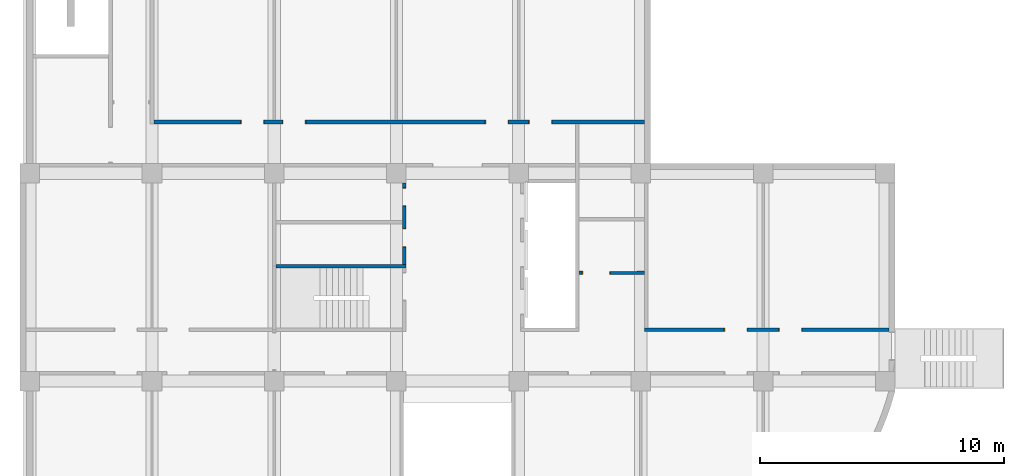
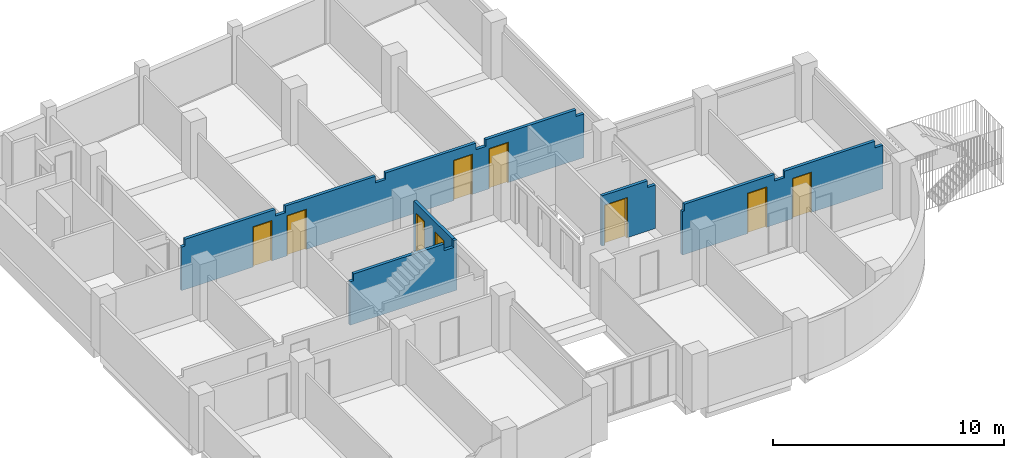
# One storey, part 4 of 7: 9 doors, 5 walls, 9 openings.
"""IFC2X3 building model written with IfcOpenShell, lengths in millimetres."""

from ifc_helpers import new_model, entity, si_unit, converted_unit, derived_unit, money_unit, direction, frame, origin_with_axes, place, context, subcontext, project, spatial, open_shell, faceted_brep, surface_model, source, transform, mapped, material, type_object, element, fill, save


model = new_model("IFC2X3")

# Units and contexts
model_context = context("Model", 3, precision=0.01, world=origin_with_axes(), true_north=direction((0.0, 1.0)))
body_context = subcontext(model_context, "Body", "Model", "MODEL_VIEW")
ifc_project = project(units=[si_unit("LENGTHUNIT", "METRE", prefix="MILLI"), si_unit("AREAUNIT", "SQUARE_METRE"), si_unit("VOLUMEUNIT", "CUBIC_METRE"), converted_unit("PLANEANGLEUNIT", "DEGREE", entity("IfcPlaneAngleMeasure", 0.0174532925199), si_unit("PLANEANGLEUNIT", "RADIAN"), dimensions=[0, 0, 0, 0, 0, 0, 0]), si_unit("SOLIDANGLEUNIT", "STERADIAN"), money_unit("JPY"), converted_unit("TIMEUNIT", "Year", entity("IfcTimeMeasure", 31556926.0), si_unit("TIMEUNIT", "SECOND"), dimensions=[0, 0, 1, 0, 0, 0, 0]), si_unit("MASSUNIT", "GRAM", prefix="KILO"), si_unit("THERMODYNAMICTEMPERATUREUNIT", "DEGREE_CELSIUS"), si_unit("LUMINOUSINTENSITYUNIT", "LUMEN"), si_unit("ENERGYUNIT", "JOULE", prefix="MEGA"), derived_unit("THERMALCONDUCTANCEUNIT", [(si_unit("POWERUNIT", "WATT"), 1), (si_unit("LENGTHUNIT", "METRE"), -1), (si_unit("THERMODYNAMICTEMPERATUREUNIT", "KELVIN"), -1)]), derived_unit("SPECIFICHEATCAPACITYUNIT", [(si_unit("ENERGYUNIT", "JOULE"), 1), (si_unit("MASSUNIT", "GRAM", prefix="KILO"), -1), (si_unit("THERMODYNAMICTEMPERATUREUNIT", "KELVIN"), -1)]), derived_unit("MASSDENSITYUNIT", [(si_unit("MASSUNIT", "GRAM", prefix="KILO"), 1), (si_unit("VOLUMEUNIT", "CUBIC_METRE"), -1)])], contexts=[model_context])

# Site, building, storey
site_placement = place(None, origin_with_axes())
site = spatial("IfcSite", under=ifc_project, at=site_placement, Name="サイト", CompositionType="ELEMENT")
building_placement = place(site_placement, origin_with_axes())
building = spatial("IfcBuilding", under=site, at=building_placement, Name="建築", CompositionType="ELEMENT")
storey_placement = place(building_placement, frame((0.0, 0.0, 3000.0), z_axis=(0.0, 0.0, 1.0), x_axis=(1.0, 0.0, 0.0)))
storey = spatial("IfcBuildingStorey", under=building, at=storey_placement, Name="2FL", CompositionType="ELEMENT", Elevation=3000.0)

# Wall, openings, doors
ifc_material = material(Name="コンクリート")
wall_type = type_object("IfcWallType", Name="コンクリート 150", PredefinedType="NOTDEFINED")
wall_1_placement = place(storey_placement, frame((25275.0000022, 10600.0, 0.0), z_axis=(0.0, 0.0, 1.0), x_axis=(-1.0, 0.0, 0.0)))
wall_1 = element("IfcWall", 1, at=wall_1_placement, inside=storey, type_object=wall_type, material=ifc_material, Name="W9", context=body_context, shape_type="Brep", body=[
    faceted_brep([(4865.00000218, -75.0, 2130.0), (4865.00000218, -75.0, 0.0), (5685.00000218, -75.0, 0.0), (5685.00000218, -75.0, 2130.0), (6645.00000218, -75.0, 2130.0), (6645.00000218, -75.0, 0.0), (13980.0000022, -75.0, 0.0), (13980.0000022, -75.0, 2130.0), (14940.0000022, -75.0, 2130.0), (14940.0000022, -75.0, 0.0), (15685.0000022, -75.0, 0.0), (15685.0000022, -75.0, 2130.0), (16645.0000022, -75.0, 2130.0), (16645.0000022, -75.0, 0.0), (20200.0000022, -75.0, 0.0), (20200.0000022, -75.0, 2300.0), (20025.0000022, -75.0, 2300.0), (20025.0000022, -75.0, 2650.0), (15525.0000022, -75.0, 2650.0), (15525.0000022, -75.0, 2300.0), (15025.0000022, -75.0, 2300.0), (15025.0000022, -75.0, 2650.0), (10525.0000022, -75.0, 2650.0), (10525.0000022, -75.0, 2300.0), (10025.0000022, -75.0, 2300.0), (10025.0000022, -75.0, 2650.0), (5525.00000218, -75.0, 2650.0), (5525.00000218, -75.0, 2300.0), (5025.00000218, -75.0, 2300.0), (5025.00000218, -75.0, 2650.0), (525.000002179, -75.0, 2650.0), (525.000002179, -75.0, 2300.0), (125.0, -75.0, 2300.0), (125.0, -75.0, 0.0), (3905.00000218, -75.0, 0.0), (3905.00000218, -75.0, 2130.0), (4865.00000218, 75.0, 2130.0), (4865.00000218, 75.0, 0.0), (5685.00000218, 75.0, 0.0), (5685.00000218, 75.0, 2130.0), (6645.00000218, 75.0, 2130.0), (6645.00000218, 75.0, 0.0), (13980.0000022, 75.0, 0.0), (13980.0000022, 75.0, 2130.0), (14940.0000022, 75.0, 2130.0), (14940.0000022, 75.0, 0.0), (15685.0000022, 75.0, 0.0), (15685.0000022, 75.0, 2130.0), (16645.0000022, 75.0, 2130.0), (16645.0000022, 75.0, 0.0), (20200.0000022, 75.0, 0.0), (20200.0000022, 75.0, 2300.0), (20025.0000022, 75.0, 2300.0), (20025.0000022, 75.0, 2650.0), (15525.0000022, 75.0, 2650.0), (15525.0000022, 75.0, 2300.0), (15025.0000022, 75.0, 2300.0), (15025.0000022, 75.0, 2650.0), (10525.0000022, 75.0, 2650.0), (10525.0000022, 75.0, 2300.0), (10025.0000022, 75.0, 2300.0), (10025.0000022, 75.0, 2650.0), (5525.00000218, 75.0, 2650.0), (5525.00000218, 75.0, 2300.0), (5025.00000218, 75.0, 2300.0), (5025.00000218, 75.0, 2650.0), (525.000002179, 75.0, 2650.0), (525.000002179, 75.0, 2300.0), (125.0, 75.0, 2300.0), (125.0, 75.0, 0.0), (3905.00000218, 75.0, 0.0), (3905.00000218, 75.0, 2130.0)], [[[0, 1, 2, 3, 4, 5, 6, 7, 8, 9, 10, 11, 12, 13, 14, 15, 16, 17, 18, 19, 20, 21, 22, 23, 24, 25, 26, 27, 28, 29, 30, 31, 32, 33, 34, 35]], [[1, 0, 36, 37]], [[1, 37, 38, 2]], [[2, 38, 39, 3]], [[3, 39, 40, 4]], [[4, 40, 41, 5]], [[41, 42, 6, 5]], [[42, 43, 7, 6]], [[43, 44, 8, 7]], [[44, 45, 9, 8]], [[46, 10, 9, 45]], [[47, 11, 10, 46]], [[48, 12, 11, 47]], [[49, 13, 12, 48]], [[14, 13, 49, 50]], [[50, 51, 15, 14]], [[52, 16, 15, 51]], [[52, 53, 17, 16]], [[18, 17, 53, 54]], [[55, 19, 18, 54]], [[56, 20, 19, 55]], [[56, 57, 21, 20]], [[22, 21, 57, 58]], [[59, 23, 22, 58]], [[60, 24, 23, 59]], [[60, 61, 25, 24]], [[26, 25, 61, 62]], [[63, 27, 26, 62]], [[64, 28, 27, 63]], [[64, 65, 29, 28]], [[65, 66, 30, 29]], [[67, 31, 30, 66]], [[67, 68, 32, 31]], [[33, 32, 68, 69]], [[70, 34, 33, 69]], [[35, 34, 70, 71]], [[0, 35, 71, 36]], [[71, 70, 69, 68, 67, 66, 65, 64, 63, 62, 61, 60, 59, 58, 57, 56, 55, 54, 53, 52, 51, 50, 49, 48, 47, 46, 45, 44, 43, 42, 41, 40, 39, 38, 37, 36]]]),
])
opening_1_placement = place(wall_1_placement, frame((16165.0000022, 0.0, 0.0), z_axis=(0.0, 0.0, 1.0), x_axis=(1.0, 0.0, 0.0)))
opening_1 = element("IfcOpeningElement", 2, at=opening_1_placement, cuts=wall_1, Name="SD3", context=body_context, shape_type="Brep", body=[
    faceted_brep([(480.0, 160.0, 0.0), (480.0, 160.0, 2130.0), (480.0, -160.0, 2130.0), (480.0, -160.0, 0.0), (-480.0, 160.0, 0.0), (-480.0, 160.0, 2130.0), (-480.0, -160.0, 2130.0), (-480.0, -160.0, 0.0)], [[[0, 1, 2, 3]], [[0, 4, 5, 1]], [[1, 5, 6, 2]], [[3, 2, 6, 7]], [[4, 0, 3, 7]], [[5, 4, 7, 6]]]),
])
opening_2_placement = place(wall_1_placement, frame((14460.0000022, 0.0, 0.0), z_axis=(0.0, 0.0, 1.0), x_axis=(1.0, 0.0, 0.0)))
opening_2 = element("IfcOpeningElement", 3, at=opening_2_placement, cuts=wall_1, Name="SD3", context=body_context, shape_type="Brep", body=[
    faceted_brep([(480.0, 160.0, 0.0), (480.0, 160.0, 2130.0), (480.0, -160.0, 2130.0), (480.0, -160.0, 0.0), (-480.0, 160.0, 0.0), (-480.0, 160.0, 2130.0), (-480.0, -160.0, 2130.0), (-480.0, -160.0, 0.0)], [[[0, 1, 2, 3]], [[0, 4, 5, 1]], [[1, 5, 6, 2]], [[3, 2, 6, 7]], [[4, 0, 3, 7]], [[5, 4, 7, 6]]]),
])
opening_3_placement = place(wall_1_placement, frame((6165.00000218, 0.0, 0.0), z_axis=(0.0, 0.0, 1.0), x_axis=(1.0, 0.0, 0.0)))
opening_3 = element("IfcOpeningElement", 4, at=opening_3_placement, cuts=wall_1, Name="SD3", context=body_context, shape_type="Brep", body=[
    faceted_brep([(480.0, 160.0, 0.0), (480.0, 160.0, 2130.0), (480.0, -160.0, 2130.0), (480.0, -160.0, 0.0), (-480.0, 160.0, 0.0), (-480.0, 160.0, 2130.0), (-480.0, -160.0, 2130.0), (-480.0, -160.0, 0.0)], [[[0, 1, 2, 3]], [[0, 4, 5, 1]], [[1, 5, 6, 2]], [[3, 2, 6, 7]], [[4, 0, 3, 7]], [[5, 4, 7, 6]]]),
])
opening_4_placement = place(wall_1_placement, frame((4385.00000218, 0.0, 0.0), z_axis=(0.0, 0.0, 1.0), x_axis=(1.0, 0.0, 0.0)))
opening_4 = element("IfcOpeningElement", 5, at=opening_4_placement, cuts=wall_1, Name="SD4", context=body_context, shape_type="Brep", body=[
    faceted_brep([(480.0, 160.0, 0.0), (480.0, 160.0, 2130.0), (480.0, -160.0, 2130.0), (480.0, -160.0, 0.0), (-480.0, 160.0, 0.0), (-480.0, 160.0, 2130.0), (-480.0, -160.0, 2130.0), (-480.0, -160.0, 0.0)], [[[0, 1, 2, 3]], [[0, 4, 5, 1]], [[1, 5, 6, 2]], [[3, 2, 6, 7]], [[4, 0, 3, 7]], [[5, 4, 7, 6]]]),
])
door_style_1 = type_object("IfcDoorStyle", Name="片開き戸", ConstructionType="NOTDEFINED", OperationType="NOTDEFINED", ParameterTakesPrecedence=False, Sizeable=False)
shared_shape_1 = source(origin_with_axes(), body_context, "Body", "SurfaceModel", [
    surface_model("IfcShellBasedSurfaceModel", [(450.0, -85.0, 0.0), (-450.0, -85.0, 0.0), (-450.0, -85.0, 2100.0), (450.0, -85.0, 2100.0)], [open_shell([[[0, 1, 2, 3]]])]),
    surface_model("IfcShellBasedSurfaceModel", [(480.0, -10.0, 0.0), (450.0, -10.0, 0.0), (450.0, -10.0, 2100.0), (-450.0, -10.0, 2100.0), (-450.0, -10.0, 0.0), (-480.0, -10.0, 0.0), (-480.0, -10.0, 2130.0), (480.0, -10.0, 2130.0)], [open_shell([[[0, 1, 2, 3, 4, 5, 6, 7]]])]),
    surface_model("IfcShellBasedSurfaceModel", [(480.0, -160.0, 0.0), (450.0, -160.0, 0.0), (450.0, -160.0, 2100.0), (-450.0, -160.0, 2100.0), (-450.0, -160.0, 0.0), (-480.0, -160.0, 0.0), (-480.0, -160.0, 2130.0), (480.0, -160.0, 2130.0)], [open_shell([[[0, 1, 2, 3, 4, 5, 6, 7]]])]),
    surface_model("IfcShellBasedSurfaceModel", [(450.0, -10.0, 0.0), (450.0, -160.0, 0.0), (450.0, -160.0, 2100.0), (450.0, -10.0, 2100.0), (480.0, -10.0, 0.0), (480.0, -160.0, 0.0), (-450.0, -160.0, 2100.0), (-450.0, -10.0, 2100.0), (480.0, -10.0, 2130.0), (480.0, -160.0, 2130.0), (-450.0, -160.0, 0.0), (-450.0, -10.0, 0.0), (-480.0, -10.0, 2130.0), (-480.0, -160.0, 2130.0), (-480.0, -160.0, 0.0), (-480.0, -10.0, 0.0)], [open_shell([[[0, 1, 2, 3]], [[4, 5, 1, 0]], [[3, 2, 6, 7]], [[8, 9, 5, 4]], [[7, 6, 10, 11]], [[12, 13, 9, 8]], [[11, 10, 14, 15]], [[15, 14, 13, 12]]])]),
])
door_1_placement = place(opening_1_placement, frame((-450.0, 0.0, 0.0), z_axis=(0.0, 0.0, 1.0), x_axis=(1.0, 0.0, 0.0)))
door_1 = element("IfcDoor", 6, at=door_1_placement, inside=storey, type_object=door_style_1, Name="SD3", OverallHeight=2165.0, OverallWidth=1030.0, context=body_context, shape_type="MappedRepresentation", body=[
    mapped(shared_shape_1, transform((450.0, 85.0, 0.0))),
])
fill(opening_1, door_1)
door_2_placement = place(opening_2_placement, frame((-450.0, 0.0, 0.0), z_axis=(0.0, 0.0, 1.0), x_axis=(1.0, 0.0, 0.0)))
door_2 = element("IfcDoor", 7, at=door_2_placement, inside=storey, type_object=door_style_1, Name="SD3", OverallHeight=2165.0, OverallWidth=1030.0, context=body_context, shape_type="MappedRepresentation", body=[
    mapped(shared_shape_1, transform((450.0, 85.0, 0.0))),
])
fill(opening_2, door_2)
door_3_placement = place(opening_3_placement, frame((-450.0, 0.0, 0.0), z_axis=(0.0, 0.0, 1.0), x_axis=(1.0, 0.0, 0.0)))
door_3 = element("IfcDoor", 8, at=door_3_placement, inside=storey, type_object=door_style_1, Name="SD3", OverallHeight=2165.0, OverallWidth=1030.0, context=body_context, shape_type="MappedRepresentation", body=[
    mapped(shared_shape_1, transform((450.0, 85.0, 0.0))),
])
fill(opening_3, door_3)
door_4_placement = place(opening_4_placement, frame((-450.0, 0.0, 0.0), z_axis=(0.0, 0.0, 1.0), x_axis=(1.0, 0.0, 0.0)))
door_4 = element("IfcDoor", 9, at=door_4_placement, inside=storey, type_object=door_style_1, Name="SD4", OverallHeight=2165.0, OverallWidth=1030.0, context=body_context, shape_type="MappedRepresentation", body=[
    mapped(shared_shape_1, transform((450.0, 85.0, 0.0))),
])
fill(opening_4, door_4)

wall_2_placement = place(storey_placement, frame((15324.9999955, 4700.0, 0.0), z_axis=(0.0, 0.0, 1.0), x_axis=(0.0, 1.0, 0.0)))
wall_2 = element("IfcWall", 10, at=wall_2_placement, inside=storey, type_object=wall_type, material=ifc_material, Name="W4", context=body_context, shape_type="Brep", body=[
    faceted_brep([(2455.0, -75.0000031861, 0.0), (2455.0, -75.0000009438, 2130.0), (3215.0, -75.0000009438, 2130.0), (3215.0, -75.0000042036, 0.0), (3400.0, -75.0000044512, 0.0), (3400.0, -75.0000044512, 2650.0), (75.0, -75.0, 2650.0), (75.0, -75.0, 0.0), (780.0, -75.0000009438, 0.0), (780.0, -75.0, 2130.0), (1540.0, -75.0, 2130.0), (1540.0, -75.0000019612, 0.0), (2455.0, 75.0, 0.0), (2455.0, 75.0, 2130.0), (3215.0, 75.0, 2130.0), (3215.0, 75.0, 0.0), (3400.0, 75.0, 0.0), (3400.0, 74.9999957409, 2650.0), (75.0, 75.0, 2650.0), (75.0, 75.0, 0.0), (780.0, 75.0, 0.0), (780.0, 75.0, 2130.0), (1540.0, 75.0, 2130.0), (1540.0, 75.0, 0.0)], [[[0, 1, 2, 3, 4, 5, 6, 7, 8, 9, 10, 11]], [[1, 0, 12, 13]], [[2, 1, 13, 14]], [[3, 2, 14, 15]], [[3, 15, 16, 4]], [[5, 4, 16, 17]], [[17, 18, 6, 5]], [[7, 6, 18, 19]], [[8, 7, 19, 20]], [[8, 20, 21, 9]], [[9, 21, 22, 10]], [[10, 22, 23, 11]], [[12, 0, 11, 23]], [[13, 12, 23, 22, 21, 20, 19, 18, 17, 16, 15, 14]]]),
])
opening_5_placement = place(wall_2_placement, frame((1160.0, 0.0, 0.0), z_axis=(0.0, 0.0, 1.0), x_axis=(1.0, 0.0, 0.0)))
opening_5 = element("IfcOpeningElement", 11, at=opening_5_placement, cuts=wall_2, Name="SD3", context=body_context, shape_type="Brep", body=[
    faceted_brep([(-380.0, -160.0, 0.0), (-380.0, -160.0, 2130.0), (-380.0, 160.0, 2130.0), (-380.0, 160.0, 0.0), (380.0, -160.0, 0.0), (380.0, -160.0, 2130.0), (380.0, 160.0, 2130.0), (380.0, 160.0, 0.0)], [[[0, 1, 2, 3]], [[0, 4, 5, 1]], [[1, 5, 6, 2]], [[3, 2, 6, 7]], [[4, 0, 3, 7]], [[5, 4, 7, 6]]]),
])
opening_6_placement = place(wall_2_placement, frame((2835.0, 0.0, 0.0), z_axis=(0.0, 0.0, 1.0), x_axis=(1.0, 0.0, 0.0)))
opening_6 = element("IfcOpeningElement", 12, at=opening_6_placement, cuts=wall_2, Name="SD3", context=body_context, shape_type="Brep", body=[
    faceted_brep([(-380.0, -160.0, 0.0), (-380.0, -160.0, 2130.0), (-380.0, 160.0, 2130.0), (-380.0, 160.0, 0.0), (380.0, -160.0, 0.0), (380.0, -160.0, 2130.0), (380.0, 160.0, 2130.0), (380.0, 160.0, 0.0)], [[[0, 1, 2, 3]], [[0, 4, 5, 1]], [[1, 5, 6, 2]], [[3, 2, 6, 7]], [[4, 0, 3, 7]], [[5, 4, 7, 6]]]),
])
shared_shape_2 = source(origin_with_axes(), body_context, "Body", "SurfaceModel", [
    surface_model("IfcShellBasedSurfaceModel", [(-350.0, -85.0, 0.0), (-350.0, -85.0, 2100.0), (350.0, -85.0, 2100.0), (350.0, -85.0, 0.0)], [open_shell([[[0, 1, 2, 3]]])]),
    surface_model("IfcShellBasedSurfaceModel", [(-380.0, -10.0, 0.0), (-380.0, -10.0, 2130.0), (380.0, -10.0, 2130.0), (380.0, -10.0, 0.0), (350.0, -10.0, 0.0), (350.0, -10.0, 2100.0), (-350.0, -10.0, 2100.0), (-350.0, -10.0, 0.0)], [open_shell([[[0, 1, 2, 3, 4, 5, 6, 7]]])]),
    surface_model("IfcShellBasedSurfaceModel", [(-380.0, -160.0, 0.0), (-380.0, -160.0, 2130.0), (380.0, -160.0, 2130.0), (380.0, -160.0, 0.0), (350.0, -160.0, 0.0), (350.0, -160.0, 2100.0), (-350.0, -160.0, 2100.0), (-350.0, -160.0, 0.0)], [open_shell([[[0, 1, 2, 3, 4, 5, 6, 7]]])]),
    surface_model("IfcShellBasedSurfaceModel", [(-350.0, -10.0, 0.0), (-350.0, -10.0, 2100.0), (-350.0, -160.0, 2100.0), (-350.0, -160.0, 0.0), (350.0, -10.0, 2100.0), (350.0, -160.0, 2100.0), (-380.0, -10.0, 0.0), (-380.0, -160.0, 0.0), (350.0, -10.0, 0.0), (350.0, -160.0, 0.0), (-380.0, -10.0, 2130.0), (-380.0, -160.0, 2130.0), (380.0, -10.0, 0.0), (380.0, -160.0, 0.0), (380.0, -10.0, 2130.0), (380.0, -160.0, 2130.0)], [open_shell([[[0, 1, 2, 3]], [[1, 4, 5, 2]], [[6, 0, 3, 7]], [[4, 8, 9, 5]], [[10, 6, 7, 11]], [[8, 12, 13, 9]], [[14, 10, 11, 15]], [[12, 14, 15, 13]]])]),
])
door_5_placement = place(opening_5_placement, frame((-350.0, 0.0, 0.0), z_axis=(0.0, 0.0, 1.0), x_axis=(1.0, 0.0, 0.0)))
door_5 = element("IfcDoor", 13, at=door_5_placement, inside=storey, type_object=door_style_1, Name="SD3", OverallHeight=2165.0, OverallWidth=830.0, context=body_context, shape_type="MappedRepresentation", body=[
    mapped(shared_shape_2, transform((350.0, 85.0, 0.0))),
])
fill(opening_5, door_5)
door_6_placement = place(opening_6_placement, frame((-350.0, 0.0, 0.0), z_axis=(0.0, 0.0, 1.0), x_axis=(1.0, 0.0, 0.0)))
door_6 = element("IfcDoor", 14, at=door_6_placement, inside=storey, type_object=door_style_1, Name="SD3", OverallHeight=2165.0, OverallWidth=830.0, context=body_context, shape_type="MappedRepresentation", body=[
    mapped(shared_shape_2, transform((350.0, 85.0, 0.0))),
])
fill(opening_6, door_6)

wall_3_placement = place(storey_placement, frame((25224.9999795, 2100.0, 0.0), z_axis=(0.0, 0.0, 1.0), x_axis=(1.0, 0.0, 0.0)))
wall_3 = element("IfcWall", 15, at=wall_3_placement, inside=storey, type_object=wall_type, material=ifc_material, Name="W7", context=body_context, shape_type="Brep", body=[
    faceted_brep([(5410.0000205, 75.0, 2130.0), (5410.0000205, 75.0, 0.0), (4140.0000205, 75.0, 0.0), (4140.0000205, 75.0, 2130.0), (3180.0000205, 75.0, 2130.0), (3180.0000205, 75.0, 0.0), (-75.0, 75.0, 0.0), (-75.0, 75.0, 2300.0), (25.0000205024, 75.0, 2300.0), (25.0000205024, 75.0, 2650.0), (4525.0000205, 75.0, 2650.0), (4525.0000205, 75.0, 2300.0), (5025.0000205, 75.0, 2300.0), (5025.0000205, 75.0, 2650.0), (9525.0000205, 75.0, 2650.0), (9525.0000205, 75.0, 2300.0), (9924.99998593, 75.0, 2300.0), (9924.99998593, 75.0, 0.0), (6370.0000205, 75.0, 0.0), (6370.0000205, 75.0, 2130.0), (5410.0000205, -75.0, 2130.0), (5410.0000205, -75.0, 0.0), (4140.0000205, -75.0, 0.0), (4140.0000205, -75.0, 2130.0), (3180.0000205, -75.0, 2130.0), (3180.0000205, -75.0, 0.0), (-75.0, -75.0, 0.0), (-75.0, -75.0, 2300.0), (25.0000205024, -75.0, 2300.0), (25.0000205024, -75.0, 2650.0), (4525.0000205, -75.0, 2650.0), (4525.0000205, -75.0, 2300.0), (5025.0000205, -75.0, 2300.0), (5025.0000205, -75.0, 2650.0), (9525.0000205, -75.0, 2650.0), (9525.0000205, -75.0, 2300.0), (9924.99998593, -75.0, 2300.0), (9924.99998593, -75.0, 0.0), (6370.0000205, -75.0, 0.0), (6370.0000205, -75.0, 2130.0)], [[[0, 1, 2, 3, 4, 5, 6, 7, 8, 9, 10, 11, 12, 13, 14, 15, 16, 17, 18, 19]], [[1, 0, 20, 21]], [[1, 21, 22, 2]], [[2, 22, 23, 3]], [[3, 23, 24, 4]], [[4, 24, 25, 5]], [[25, 26, 6, 5]], [[7, 6, 26, 27]], [[7, 27, 28, 8]], [[9, 8, 28, 29]], [[29, 30, 10, 9]], [[10, 30, 31, 11]], [[11, 31, 32, 12]], [[13, 12, 32, 33]], [[14, 13, 33, 34]], [[14, 34, 35, 15]], [[16, 15, 35, 36]], [[36, 37, 17, 16]], [[38, 18, 17, 37]], [[19, 18, 38, 39]], [[0, 19, 39, 20]], [[39, 38, 37, 36, 35, 34, 33, 32, 31, 30, 29, 28, 27, 26, 25, 24, 23, 22, 21, 20]]]),
])
opening_7_placement = place(wall_3_placement, frame((3660.0000205, 0.0, 0.0), z_axis=(0.0, 0.0, 1.0), x_axis=(1.0, 0.0, 0.0)))
opening_7 = element("IfcOpeningElement", 16, at=opening_7_placement, cuts=wall_3, Name="SD4", context=body_context, shape_type="Brep", body=[
    faceted_brep([(-480.0, -160.0, 0.0), (-480.0, -160.0, 2130.0), (-480.0, 160.0, 2130.0), (-480.0, 160.0, 0.0), (480.0, -160.0, 0.0), (480.0, -160.0, 2130.0), (480.0, 160.0, 2130.0), (480.0, 160.0, 0.0)], [[[0, 1, 2, 3]], [[0, 4, 5, 1]], [[1, 5, 6, 2]], [[3, 2, 6, 7]], [[4, 0, 3, 7]], [[5, 4, 7, 6]]]),
])
opening_8_placement = place(wall_3_placement, frame((5890.0000205, 0.0, 0.0), z_axis=(0.0, 0.0, 1.0), x_axis=(1.0, 0.0, 0.0)))
opening_8 = element("IfcOpeningElement", 17, at=opening_8_placement, cuts=wall_3, Name="SD5", context=body_context, shape_type="Brep", body=[
    faceted_brep([(480.0, 160.0, 0.0), (480.0, 160.0, 2130.0), (480.0, -160.0, 2130.0), (480.0, -160.0, 0.0), (-480.0, 160.0, 0.0), (-480.0, 160.0, 2130.0), (-480.0, -160.0, 2130.0), (-480.0, -160.0, 0.0)], [[[0, 1, 2, 3]], [[0, 4, 5, 1]], [[1, 5, 6, 2]], [[3, 2, 6, 7]], [[4, 0, 3, 7]], [[5, 4, 7, 6]]]),
])
shared_shape_3 = source(origin_with_axes(), body_context, "Body", "SurfaceModel", [
    surface_model("IfcShellBasedSurfaceModel", [(-450.0, -85.0, 0.0), (-450.0, -85.0, 2100.0), (450.0, -85.0, 2100.0), (450.0, -85.0, 0.0)], [open_shell([[[0, 1, 2, 3]]])]),
    surface_model("IfcShellBasedSurfaceModel", [(-480.0, -10.0, 0.0), (-480.0, -10.0, 2130.0), (480.0, -10.0, 2130.0), (480.0, -10.0, 0.0), (450.0, -10.0, 0.0), (450.0, -10.0, 2100.0), (-450.0, -10.0, 2100.0), (-450.0, -10.0, 0.0)], [open_shell([[[0, 1, 2, 3, 4, 5, 6, 7]]])]),
    surface_model("IfcShellBasedSurfaceModel", [(-480.0, -160.0, 0.0), (-480.0, -160.0, 2130.0), (480.0, -160.0, 2130.0), (480.0, -160.0, 0.0), (450.0, -160.0, 0.0), (450.0, -160.0, 2100.0), (-450.0, -160.0, 2100.0), (-450.0, -160.0, 0.0)], [open_shell([[[0, 1, 2, 3, 4, 5, 6, 7]]])]),
    surface_model("IfcShellBasedSurfaceModel", [(-450.0, -10.0, 0.0), (-450.0, -10.0, 2100.0), (-450.0, -160.0, 2100.0), (-450.0, -160.0, 0.0), (450.0, -10.0, 2100.0), (450.0, -160.0, 2100.0), (-480.0, -10.0, 0.0), (-480.0, -160.0, 0.0), (450.0, -10.0, 0.0), (450.0, -160.0, 0.0), (-480.0, -10.0, 2130.0), (-480.0, -160.0, 2130.0), (480.0, -10.0, 0.0), (480.0, -160.0, 0.0), (480.0, -10.0, 2130.0), (480.0, -160.0, 2130.0)], [open_shell([[[0, 1, 2, 3]], [[1, 4, 5, 2]], [[6, 0, 3, 7]], [[4, 8, 9, 5]], [[10, 6, 7, 11]], [[8, 12, 13, 9]], [[14, 10, 11, 15]], [[12, 14, 15, 13]]])]),
])
door_7_placement = place(opening_7_placement, frame((-450.0, 0.0, 0.0), z_axis=(0.0, 0.0, 1.0), x_axis=(1.0, 0.0, 0.0)))
door_7 = element("IfcDoor", 18, at=door_7_placement, inside=storey, type_object=door_style_1, Name="SD4", OverallHeight=2165.0, OverallWidth=1030.0, context=body_context, shape_type="MappedRepresentation", body=[
    mapped(shared_shape_3, transform((450.0, 85.0, 0.0))),
])
fill(opening_7, door_7)
door_8_placement = place(opening_8_placement, frame((-450.0, 0.0, 0.0), z_axis=(0.0, 0.0, 1.0), x_axis=(1.0, 0.0, 0.0)))
door_8 = element("IfcDoor", 19, at=door_8_placement, inside=storey, type_object=door_style_1, Name="SD5", OverallHeight=2165.0, OverallWidth=1030.0, context=body_context, shape_type="MappedRepresentation", body=[
    mapped(shared_shape_1, transform((450.0, 85.0, 0.0))),
])
fill(opening_8, door_8)

# Wall
wall_4_placement = place(storey_placement, frame((10000.0, 4700.0, 0.0), z_axis=(0.0, 0.0, 1.0), x_axis=(1.0, 0.0, 0.0)))
element("IfcWall", 20, at=wall_4_placement, inside=storey, type_object=wall_type, material=ifc_material, Name="W4", context=body_context, shape_type="Brep", body=[
    faceted_brep([(75.0, 75.0, 0.0), (75.0, 75.0, 2300.0), (250.0, 75.0, 2300.0), (250.0, 75.0, 2650.0), (4750.0, 75.0, 2650.0), (4750.0, 75.0, 2300.0), (5250.0, 75.0, 2300.0), (5250.0, 75.0, 2650.0), (5399.99999555, 75.0, 2650.0), (5399.99999555, 75.0, 0.0), (75.0, 0.0, 0.0), (75.0, 0.0, 2300.0), (250.0, -75.0, 2300.0), (75.0, -75.0, 2300.0), (250.0, -75.0, 2650.0), (3381.20524398, -75.0, 2650.0), (4750.0, -75.0, 2650.0), (4750.0, -75.0, 2300.0), (5250.0, -75.0, 2300.0), (5250.0, -75.0, 2650.0), (5399.99999555, -75.0, 2650.0), (5399.99999555, -75.0, 0.0), (75.0, -75.0, 0.0)], [[[0, 1, 2, 3, 4, 5, 6, 7, 8, 9]], [[10, 11, 1, 0]], [[12, 2, 1, 11, 13]], [[12, 14, 3, 2]], [[4, 3, 14, 15, 16]], [[17, 5, 4, 16]], [[18, 6, 5, 17]], [[18, 19, 7, 6]], [[8, 7, 19, 20]], [[21, 9, 8, 20]], [[9, 21, 22, 10, 0]], [[22, 13, 11, 10]], [[14, 12, 13, 22, 21, 20, 19, 18, 17, 16, 15]]]),
])

# Wall, opening, door
wall_5_placement = place(storey_placement, frame((22400.0, 4425.000045, 0.0), z_axis=(0.0, 0.0, 1.0), x_axis=(1.0, 0.0, 0.0)))
wall_5 = element("IfcWall", 21, at=wall_5_placement, inside=storey, type_object=wall_type, material=ifc_material, Name="W8", context=body_context, shape_type="Brep", body=[
    faceted_brep([(2480.0, 75.0, 2130.0), (1355.0, 75.0, 2130.0), (195.0, 75.0, 2130.0), (195.0, 75.0, 0.0), (75.0, 75.0, 0.0), (75.0, 75.0, 2650.0), (2350.0, 75.0, 2650.0), (2350.0, 75.0, 2300.0), (2749.9999795, 75.0, 2300.0), (2749.9999795, 75.0, 0.0), (2480.0, 75.0, 0.0), (2480.0, 55.0, 2130.0), (1355.0, 55.0, 2130.0), (1355.0, -75.0, 2130.0), (195.0, -75.0, 2130.0), (195.0, -75.0, 0.0), (75.0, -75.0, 0.0), (75.0, -75.0, 2650.0), (2350.0, -75.0, 2650.0), (2350.0, -75.0, 2300.0), (2749.9999795, -75.0, 2300.0), (2749.9999795, -75.0, 0.0), (2480.0, 55.0, 0.0), (1355.0, -75.0, 0.0), (1355.0, 55.0, 0.0)], [[[0, 1, 2, 3, 4, 5, 6, 7, 8, 9, 10]], [[1, 0, 11, 12]], [[1, 12, 13, 14, 2]], [[2, 14, 15, 3]], [[15, 16, 4, 3]], [[17, 5, 4, 16]], [[6, 5, 17, 18]], [[6, 18, 19, 7]], [[8, 7, 19, 20]], [[20, 21, 9, 8]], [[22, 10, 9, 21, 23, 24]], [[0, 10, 22, 11]], [[22, 24, 12, 11]], [[12, 24, 23, 13]], [[16, 15, 14, 13, 23, 21, 20, 19, 18, 17]]]),
])
opening_9_placement = place(wall_5_placement, frame((775.0, 0.0, 0.0), z_axis=(0.0, 0.0, 1.0), x_axis=(1.0, 0.0, 0.0)))
opening_9 = element("IfcOpeningElement", 22, at=opening_9_placement, cuts=wall_5, Name="SD4", context=body_context, shape_type="Brep", body=[
    faceted_brep([(1705.0, 225.0, 0.0), (1705.0, 225.0, 2130.0), (1705.0, 55.0, 2130.0), (1705.0, 55.0, 0.0), (-580.0, 225.0, 0.0), (-580.0, 225.0, 2130.0), (-580.0, 55.0, 2130.0), (-580.0, 55.0, 0.0)], [[[0, 1, 2, 3]], [[0, 4, 5, 1]], [[1, 5, 6, 2]], [[3, 2, 6, 7]], [[4, 0, 3, 7]], [[5, 4, 7, 6]]]),
    faceted_brep([(-580.0, -160.0, 0.0), (-580.0, -160.0, 2130.0), (-580.0, 160.0, 2130.0), (-580.0, 160.0, 0.0), (580.0, -160.0, 0.0), (580.0, -160.0, 2130.0), (580.0, 160.0, 2130.0), (580.0, 160.0, 0.0)], [[[0, 1, 2, 3]], [[0, 4, 5, 1]], [[1, 5, 6, 2]], [[3, 2, 6, 7]], [[4, 0, 3, 7]], [[5, 4, 7, 6]]]),
])
door_style_2 = type_object("IfcDoorStyle", Name="片引き戸", ConstructionType="NOTDEFINED", OperationType="NOTDEFINED", ParameterTakesPrecedence=False, Sizeable=False)
shared_shape_4 = source(origin_with_axes(), body_context, "Body", "SurfaceModel", [
    surface_model("IfcShellBasedSurfaceModel", [(-550.0, -0.5, 3.0), (-550.0, -0.5, 2103.0), (550.0, -0.5, 2103.0), (550.0, -0.5, 3.0)], [open_shell([[[0, 1, 2, 3]]])]),
    surface_model("IfcShellBasedSurfaceModel", [(-580.0, -10.0, 0.0), (-580.0, -10.0, 2130.0), (1705.0, -10.0, 2130.0), (1705.0, -10.0, 0.0), (1675.0, -10.0, 0.0), (1675.0, -10.0, 2100.0), (-550.0, -10.0, 2100.0), (-550.0, -10.0, 0.0)], [open_shell([[[0, 1, 2, 3, 4, 5, 6, 7]]])]),
    surface_model("IfcShellBasedSurfaceModel", [(580.0, -30.0, 2130.0), (1705.0, -30.0, 2130.0), (1705.0, -30.0, 0.0), (1675.0, -30.0, 0.0), (1675.0, -30.0, 2100.0), (580.0, -30.0, 2100.0)], [open_shell([[[0, 1, 2, 3, 4, 5]]])]),
    surface_model("IfcShellBasedSurfaceModel", [(-550.0, -10.0, 0.0), (-550.0, -10.0, 2100.0), (-550.0, -30.0, 2100.0), (-550.0, -30.0, 0.0), (1675.0, -10.0, 2100.0), (1675.0, -30.0, 2100.0), (-580.0, -10.0, 0.0), (-580.0, -30.0, 0.0), (1675.0, -10.0, 0.0), (1675.0, -30.0, 0.0), (-580.0, -10.0, 2130.0), (-580.0, -30.0, 2130.0), (1705.0, -10.0, 0.0), (1705.0, -30.0, 0.0), (1705.0, -10.0, 2130.0), (1705.0, -30.0, 2130.0)], [open_shell([[[0, 1, 2, 3]], [[1, 4, 5, 2]], [[6, 0, 3, 7]], [[4, 8, 9, 5]], [[10, 6, 7, 11]], [[8, 12, 13, 9]], [[14, 10, 11, 15]], [[12, 14, 15, 13]]])]),
    surface_model("IfcShellBasedSurfaceModel", [(-580.0, -30.0, 0.0), (-580.0, -30.0, 2130.0), (580.0, -30.0, 2130.0), (580.0, -30.0, 0.0), (550.0, -30.0, 0.0), (550.0, -30.0, 2100.0), (-550.0, -30.0, 2100.0), (-550.0, -30.0, 0.0)], [open_shell([[[0, 1, 2, 3, 4, 5, 6, 7]]])]),
    surface_model("IfcShellBasedSurfaceModel", [(-580.0, -160.0, 0.0), (-580.0, -160.0, 2130.0), (580.0, -160.0, 2130.0), (580.0, -160.0, 0.0), (550.0, -160.0, 0.0), (550.0, -160.0, 2100.0), (-550.0, -160.0, 2100.0), (-550.0, -160.0, 0.0)], [open_shell([[[0, 1, 2, 3, 4, 5, 6, 7]]])]),
    surface_model("IfcShellBasedSurfaceModel", [(-550.0, -30.0, 0.0), (-550.0, -30.0, 2100.0), (-550.0, -160.0, 2100.0), (-550.0, -160.0, 0.0), (550.0, -30.0, 2100.0), (550.0, -160.0, 2100.0), (-580.0, -30.0, 0.0), (-580.0, -160.0, 0.0), (550.0, -30.0, 0.0), (550.0, -160.0, 0.0), (-580.0, -30.0, 2130.0), (-580.0, -160.0, 2130.0), (580.0, -30.0, 0.0), (580.0, -160.0, 0.0), (580.0, -30.0, 2130.0), (580.0, -160.0, 2130.0)], [open_shell([[[0, 1, 2, 3]], [[1, 4, 5, 2]], [[6, 0, 3, 7]], [[4, 8, 9, 5]], [[10, 6, 7, 11]], [[8, 12, 13, 9]], [[14, 10, 11, 15]], [[12, 14, 15, 13]]])]),
])
door_9_placement = place(opening_9_placement, frame((-550.0, 0.0, 0.0), z_axis=(0.0, 0.0, 1.0), x_axis=(1.0, 0.0, 0.0)))
door_9 = element("IfcDoor", 23, at=door_9_placement, inside=storey, type_object=door_style_2, Name="SD4", OverallHeight=2150.0, OverallWidth=1200.0, context=body_context, shape_type="MappedRepresentation", body=[
    mapped(shared_shape_4, transform((550.0, 85.0, 0.0))),
])
fill(opening_9, door_9)

save(model, "model.ifc")
